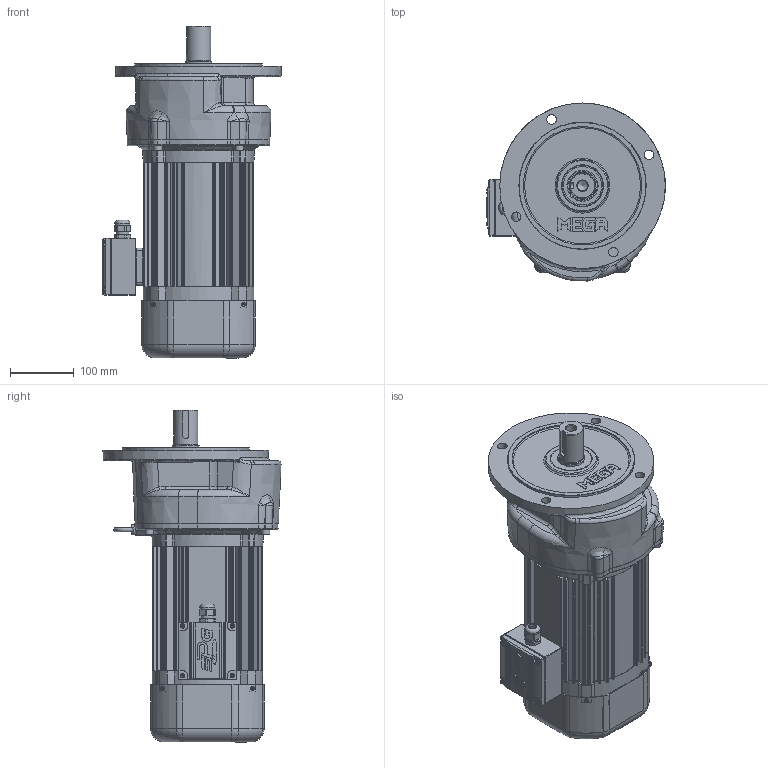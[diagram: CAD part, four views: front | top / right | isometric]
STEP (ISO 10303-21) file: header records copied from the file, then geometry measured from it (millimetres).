
FILE_DESCRIPTION(/* description */ (''),/* implementation_level */ '2;1');
FILE_NAME(/* name */ 'Z:\동력 3D 파일\PMK153_1.5kW_Brake_3D.stp',/* time_stamp */ '2021-11-30T17:52:40+09:00',/* author */ ('jaebok'),/* organization */ (''),/* preprocessor_version */ 'ST-DEVELOPER v18.1',/* originating_system */ 'Autodesk Inventor 2022',/* authorisation */ '');
FILE_SCHEMA (('AUTOMOTIVE_DESIGN { 1 0 10303 214 3 1 1 }'));
Products named in the file (1): 부품37
Bounding box: 280.5 x 279.52 x 521.3 mm (x, y, z)
Volume: 4897275.7 mm3; surface area: 1106379.2 mm2
Topology: 2 solids, 33 shells, 3242 faces, 8086 edges, 4836 vertices
Faces by surface type: plane 963, bspline 843, cylinder 821, torus 310, cone 209, sphere 96
Full cylindrical faces by diameter (mm): 2 x1, 3.25 x1, 3.6 x4, 4 x21, 5 x17, 6 x9, 6.8 x5, 7 x13, 8 x15, 8.8 x4, 10 x1, 12.5 x1, 13 x4, 15 x5, 16 x1, 20 x2, 20.6 x1, 21 x1, 22 x1, 23.6 x1, 25 x1, 28 x2, 35 x1, 36 x1, 38 x1, 39.6 x1, 40 x1, 40.15 x1, 42 x3, 45 x1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
Entity records: 126014 total; most frequent: CARTESIAN_POINT 50772, ORIENTED_EDGE 15830, DIRECTION 13852, EDGE_CURVE 7915, AXIS2_PLACEMENT_3D 5652, VERTEX_POINT 4835, EDGE_LOOP 3454, FACE_OUTER_BOUND 3242
